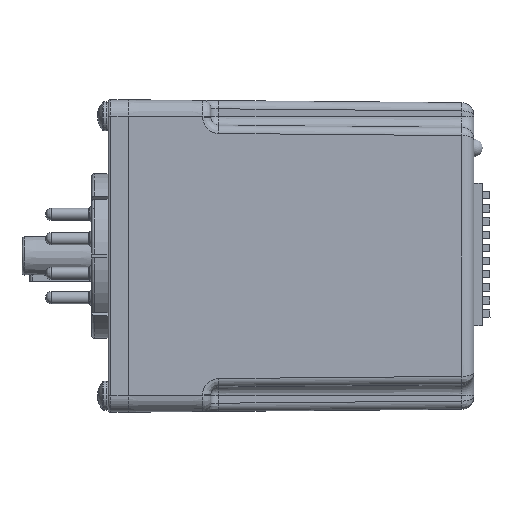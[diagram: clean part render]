
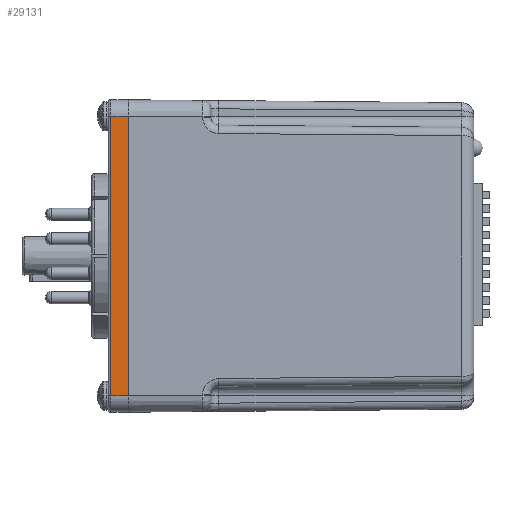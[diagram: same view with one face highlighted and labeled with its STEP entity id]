
A CAD part, left-side view. The second image highlights one B-rep face of the part: STEP entity #29131.
In plain terms, the highlighted planar face has unit normal (-1, 0, 0).
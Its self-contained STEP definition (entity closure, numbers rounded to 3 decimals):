
#8993 = PLANE('',#8994);
#8994 = AXIS2_PLACEMENT_3D('',#8995,#8996,#8997);
#8995 = CARTESIAN_POINT('',(-22.225,87.173,-30.163));
#8996 = DIRECTION('',(0.,1.,0.));
#8997 = DIRECTION('',(1.,0.,-0.));
#15916 = VERTEX_POINT('',#15917);
#15917 = CARTESIAN_POINT('',(-22.225,87.173,26.988));
#15936 = CYLINDRICAL_SURFACE('',#15937,3.175);
#15937 = AXIS2_PLACEMENT_3D('',#15938,#15939,#15940);
#15938 = CARTESIAN_POINT('',(-19.05,87.173,26.988));
#15939 = DIRECTION('',(0.,1.,0.));
#15940 = DIRECTION('',(0.,0.,-1.));
#15948 = EDGE_CURVE('',#15949,#15916,#15951,.T.);
#15949 = VERTEX_POINT('',#15950);
#15950 = CARTESIAN_POINT('',(-22.225,87.173,-26.988));
#15951 = SURFACE_CURVE('',#15952,(#15956,#15963),.PCURVE_S1.);
#15952 = LINE('',#15953,#15954);
#15953 = CARTESIAN_POINT('',(-22.225,87.173,-30.163));
#15954 = VECTOR('',#15955,1.);
#15955 = DIRECTION('',(0.,-0.,1.));
#15956 = PCURVE('',#8993,#15957);
#15957 = DEFINITIONAL_REPRESENTATION('',(#15958),#15962);
#15958 = LINE('',#15959,#15960);
#15959 = CARTESIAN_POINT('',(0.,0.));
#15960 = VECTOR('',#15961,1.);
#15961 = DIRECTION('',(0.,-1.));
#15962 = ( GEOMETRIC_REPRESENTATION_CONTEXT(2) 
PARAMETRIC_REPRESENTATION_CONTEXT() REPRESENTATION_CONTEXT('2D SPACE',''
  ) );
#15963 = PCURVE('',#15964,#15969);
#15964 = PLANE('',#15965);
#15965 = AXIS2_PLACEMENT_3D('',#15966,#15967,#15968);
#15966 = CARTESIAN_POINT('',(-22.225,87.173,-30.163));
#15967 = DIRECTION('',(1.,0.,0.));
#15968 = DIRECTION('',(0.,0.,-1.));
#15969 = DEFINITIONAL_REPRESENTATION('',(#15970),#15974);
#15970 = LINE('',#15971,#15972);
#15971 = CARTESIAN_POINT('',(0.,0.));
#15972 = VECTOR('',#15973,1.);
#15973 = DIRECTION('',(-1.,0.));
#15974 = ( GEOMETRIC_REPRESENTATION_CONTEXT(2) 
PARAMETRIC_REPRESENTATION_CONTEXT() REPRESENTATION_CONTEXT('2D SPACE',''
  ) );
#15997 = CYLINDRICAL_SURFACE('',#15998,3.175);
#15998 = AXIS2_PLACEMENT_3D('',#15999,#16000,#16001);
#15999 = CARTESIAN_POINT('',(-19.05,91.135,-26.988));
#16000 = DIRECTION('',(0.,-1.,0.));
#16001 = DIRECTION('',(0.,0.,1.));
#24210 = CYLINDRICAL_SURFACE('',#24211,0.508);
#24211 = AXIS2_PLACEMENT_3D('',#24212,#24213,#24214);
#24212 = CARTESIAN_POINT('',(-21.717,90.627,-30.163));
#24213 = DIRECTION('',(0.,0.,1.));
#24214 = DIRECTION('',(1.,0.,0.));
#29131 = ADVANCED_FACE('',(#29132),#15964,.F.);
#29132 = FACE_BOUND('',#29133,.T.);
#29133 = EDGE_LOOP('',(#29134,#29157,#29180,#29201));
#29134 = ORIENTED_EDGE('',*,*,#29135,.T.);
#29135 = EDGE_CURVE('',#15916,#29136,#29138,.T.);
#29136 = VERTEX_POINT('',#29137);
#29137 = CARTESIAN_POINT('',(-22.225,90.627,26.988));
#29138 = SURFACE_CURVE('',#29139,(#29143,#29150),.PCURVE_S1.);
#29139 = LINE('',#29140,#29141);
#29140 = CARTESIAN_POINT('',(-22.225,87.173,26.988));
#29141 = VECTOR('',#29142,1.);
#29142 = DIRECTION('',(0.,1.,0.));
#29143 = PCURVE('',#15964,#29144);
#29144 = DEFINITIONAL_REPRESENTATION('',(#29145),#29149);
#29145 = LINE('',#29146,#29147);
#29146 = CARTESIAN_POINT('',(-57.15,0.));
#29147 = VECTOR('',#29148,1.);
#29148 = DIRECTION('',(0.,1.));
#29149 = ( GEOMETRIC_REPRESENTATION_CONTEXT(2) 
PARAMETRIC_REPRESENTATION_CONTEXT() REPRESENTATION_CONTEXT('2D SPACE',''
  ) );
#29150 = PCURVE('',#15936,#29151);
#29151 = DEFINITIONAL_REPRESENTATION('',(#29152),#29156);
#29152 = LINE('',#29153,#29154);
#29153 = CARTESIAN_POINT('',(1.571,0.));
#29154 = VECTOR('',#29155,1.);
#29155 = DIRECTION('',(0.,1.));
#29156 = ( GEOMETRIC_REPRESENTATION_CONTEXT(2) 
PARAMETRIC_REPRESENTATION_CONTEXT() REPRESENTATION_CONTEXT('2D SPACE',''
  ) );
#29157 = ORIENTED_EDGE('',*,*,#29158,.T.);
#29158 = EDGE_CURVE('',#29136,#29159,#29161,.T.);
#29159 = VERTEX_POINT('',#29160);
#29160 = CARTESIAN_POINT('',(-22.225,90.627,-26.988));
#29161 = SURFACE_CURVE('',#29162,(#29166,#29173),.PCURVE_S1.);
#29162 = LINE('',#29163,#29164);
#29163 = CARTESIAN_POINT('',(-22.225,90.627,-30.163));
#29164 = VECTOR('',#29165,1.);
#29165 = DIRECTION('',(0.,0.,-1.));
#29166 = PCURVE('',#15964,#29167);
#29167 = DEFINITIONAL_REPRESENTATION('',(#29168),#29172);
#29168 = LINE('',#29169,#29170);
#29169 = CARTESIAN_POINT('',(0.,3.454));
#29170 = VECTOR('',#29171,1.);
#29171 = DIRECTION('',(1.,0.));
#29172 = ( GEOMETRIC_REPRESENTATION_CONTEXT(2) 
PARAMETRIC_REPRESENTATION_CONTEXT() REPRESENTATION_CONTEXT('2D SPACE',''
  ) );
#29173 = PCURVE('',#24210,#29174);
#29174 = DEFINITIONAL_REPRESENTATION('',(#29175),#29179);
#29175 = LINE('',#29176,#29177);
#29176 = CARTESIAN_POINT('',(3.142,0.));
#29177 = VECTOR('',#29178,1.);
#29178 = DIRECTION('',(0.,-1.));
#29179 = ( GEOMETRIC_REPRESENTATION_CONTEXT(2) 
PARAMETRIC_REPRESENTATION_CONTEXT() REPRESENTATION_CONTEXT('2D SPACE',''
  ) );
#29180 = ORIENTED_EDGE('',*,*,#29181,.T.);
#29181 = EDGE_CURVE('',#29159,#15949,#29182,.T.);
#29182 = SURFACE_CURVE('',#29183,(#29187,#29194),.PCURVE_S1.);
#29183 = LINE('',#29184,#29185);
#29184 = CARTESIAN_POINT('',(-22.225,87.173,-26.988));
#29185 = VECTOR('',#29186,1.);
#29186 = DIRECTION('',(0.,-1.,0.));
#29187 = PCURVE('',#15964,#29188);
#29188 = DEFINITIONAL_REPRESENTATION('',(#29189),#29193);
#29189 = LINE('',#29190,#29191);
#29190 = CARTESIAN_POINT('',(-3.175,0.));
#29191 = VECTOR('',#29192,1.);
#29192 = DIRECTION('',(0.,-1.));
#29193 = ( GEOMETRIC_REPRESENTATION_CONTEXT(2) 
PARAMETRIC_REPRESENTATION_CONTEXT() REPRESENTATION_CONTEXT('2D SPACE',''
  ) );
#29194 = PCURVE('',#15997,#29195);
#29195 = DEFINITIONAL_REPRESENTATION('',(#29196),#29200);
#29196 = LINE('',#29197,#29198);
#29197 = CARTESIAN_POINT('',(1.571,3.962));
#29198 = VECTOR('',#29199,1.);
#29199 = DIRECTION('',(0.,1.));
#29200 = ( GEOMETRIC_REPRESENTATION_CONTEXT(2) 
PARAMETRIC_REPRESENTATION_CONTEXT() REPRESENTATION_CONTEXT('2D SPACE',''
  ) );
#29201 = ORIENTED_EDGE('',*,*,#15948,.T.);
